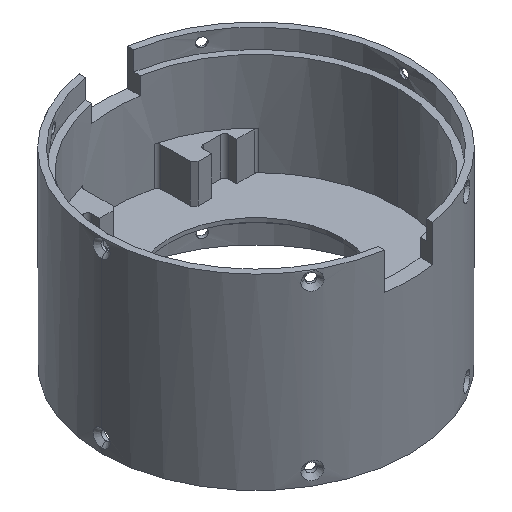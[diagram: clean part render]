
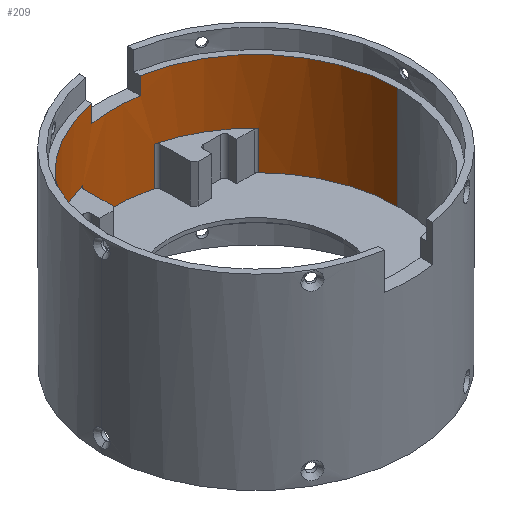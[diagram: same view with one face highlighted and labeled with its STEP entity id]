
A CAD part, isometric view. The second image highlights one B-rep face of the part: STEP entity #209.
In plain terms, the highlighted cylindrical face has radius 36.77 mm (diameter 73.54 mm), a partial arc.
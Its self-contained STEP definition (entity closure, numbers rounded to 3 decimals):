
#62 = DIRECTION ( 'NONE',  ( 0., 0., -1. ) ) ;
#209 = ADVANCED_FACE ( 'NONE', ( #2240 ), #686, .F. ) ;
#263 = CARTESIAN_POINT ( 'NONE',  ( -26.298, 25.699, 20. ) ) ;
#368 = ORIENTED_EDGE ( 'NONE', *, *, #799, .F. ) ;
#374 = DIRECTION ( 'NONE',  ( 1., 0., 0. ) ) ;
#376 = CARTESIAN_POINT ( 'NONE',  ( 36.77, 0., -94.001 ) ) ;
#400 = DIRECTION ( 'NONE',  ( 0., 0., 1. ) ) ;
#406 = CARTESIAN_POINT ( 'NONE',  ( -36.77, 0., 36.5 ) ) ;
#421 = ORIENTED_EDGE ( 'NONE', *, *, #4607, .F. ) ;
#488 = ORIENTED_EDGE ( 'NONE', *, *, #4606, .T. ) ;
#508 = EDGE_CURVE ( 'NONE', #1158, #2934, #1681, .T. ) ;
#532 = VECTOR ( 'NONE', #4901, 1000. ) ;
#541 = CIRCLE ( 'NONE', #4417, 36.77 ) ;
#643 = CARTESIAN_POINT ( 'NONE',  ( 6.25, 36.235, 32. ) ) ;
#661 = DIRECTION ( 'NONE',  ( 0., 0., 1. ) ) ;
#686 = CYLINDRICAL_SURFACE ( 'NONE', #1353, 36.77 ) ;
#708 = CIRCLE ( 'NONE', #2643, 36.77 ) ;
#728 = EDGE_CURVE ( 'NONE', #1699, #3225, #4744, .T. ) ;
#754 = LINE ( 'NONE', #2357, #4076 ) ;
#758 = EDGE_CURVE ( 'NONE', #3372, #1598, #754, .T. ) ;
#764 = VERTEX_POINT ( 'NONE', #4368 ) ;
#789 = CARTESIAN_POINT ( 'NONE',  ( 36.77, 0., 10. ) ) ;
#799 = EDGE_CURVE ( 'NONE', #4082, #764, #5207, .T. ) ;
#818 = CIRCLE ( 'NONE', #3522, 36.77 ) ;
#846 = LINE ( 'NONE', #1987, #4834 ) ;
#854 = LINE ( 'NONE', #376, #4703 ) ;
#915 = CIRCLE ( 'NONE', #3869, 36.77 ) ;
#935 = ORIENTED_EDGE ( 'NONE', *, *, #4119, .T. ) ;
#940 = VERTEX_POINT ( 'NONE', #263 ) ;
#1018 = EDGE_CURVE ( 'NONE', #1820, #4577, #846, .T. ) ;
#1095 = CARTESIAN_POINT ( 'NONE',  ( -36.77, 0., 10. ) ) ;
#1158 = VERTEX_POINT ( 'NONE', #4520 ) ;
#1160 = CARTESIAN_POINT ( 'NONE',  ( 0., 0., 10. ) ) ;
#1221 = DIRECTION ( 'NONE',  ( 1., 0., 0. ) ) ;
#1353 = AXIS2_PLACEMENT_3D ( 'NONE', #1902, #661, #3411 ) ;
#1382 = CARTESIAN_POINT ( 'NONE',  ( 0., 0., 10. ) ) ;
#1413 = ORIENTED_EDGE ( 'NONE', *, *, #2855, .F. ) ;
#1479 = CARTESIAN_POINT ( 'NONE',  ( -26.298, 25.699, -94.001 ) ) ;
#1495 = VERTEX_POINT ( 'NONE', #2908 ) ;
#1593 = DIRECTION ( 'NONE',  ( 0., 0., -1. ) ) ;
#1598 = VERTEX_POINT ( 'NONE', #2186 ) ;
#1681 = LINE ( 'NONE', #3719, #2983 ) ;
#1694 = EDGE_CURVE ( 'NONE', #2285, #4082, #4169, .T. ) ;
#1699 = VERTEX_POINT ( 'NONE', #1095 ) ;
#1709 = DIRECTION ( 'NONE',  ( 0., 0., -1. ) ) ;
#1759 = EDGE_CURVE ( 'NONE', #2285, #5101, #2520, .T. ) ;
#1800 = VECTOR ( 'NONE', #4426, 1000. ) ;
#1820 = VERTEX_POINT ( 'NONE', #2441 ) ;
#1850 = DIRECTION ( 'NONE',  ( 0., 0., 1. ) ) ;
#1902 = CARTESIAN_POINT ( 'NONE',  ( 0., 0., -94.001 ) ) ;
#1974 = DIRECTION ( 'NONE',  ( 0., 0., -1. ) ) ;
#1987 = CARTESIAN_POINT ( 'NONE',  ( 9.252, 35.587, -94.001 ) ) ;
#2160 = CARTESIAN_POINT ( 'NONE',  ( -6.25, 36.235, 32. ) ) ;
#2184 = ORIENTED_EDGE ( 'NONE', *, *, #508, .T. ) ;
#2186 = CARTESIAN_POINT ( 'NONE',  ( 26.298, 25.699, 10. ) ) ;
#2201 = DIRECTION ( 'NONE',  ( -1., 0., 0. ) ) ;
#2225 = ORIENTED_EDGE ( 'NONE', *, *, #2555, .T. ) ;
#2240 = FACE_OUTER_BOUND ( 'NONE', #2607, .T. ) ;
#2285 = VERTEX_POINT ( 'NONE', #2288 ) ;
#2288 = CARTESIAN_POINT ( 'NONE',  ( -6.25, 36.235, 32. ) ) ;
#2314 = VERTEX_POINT ( 'NONE', #5135 ) ;
#2333 = EDGE_CURVE ( 'NONE', #1820, #2934, #4747, .T. ) ;
#2357 = CARTESIAN_POINT ( 'NONE',  ( 26.298, 25.699, -94.001 ) ) ;
#2410 = CARTESIAN_POINT ( 'NONE',  ( 0., 0., 20. ) ) ;
#2441 = CARTESIAN_POINT ( 'NONE',  ( 9.252, 35.587, 10. ) ) ;
#2450 = CARTESIAN_POINT ( 'NONE',  ( 0., 0., 36.5 ) ) ;
#2520 = LINE ( 'NONE', #2160, #532 ) ;
#2547 = CARTESIAN_POINT ( 'NONE',  ( 0., 0., 20. ) ) ;
#2555 = EDGE_CURVE ( 'NONE', #4577, #3372, #3479, .T. ) ;
#2579 = DIRECTION ( 'NONE',  ( 0., 0., -1. ) ) ;
#2607 = EDGE_LOOP ( 'NONE', ( #4782, #1413, #935, #2959, #2184, #3214, #4145, #2225, #4180, #4792, #488, #3997, #368, #4953, #5173, #421 ) ) ;
#2617 = LINE ( 'NONE', #1479, #2700 ) ;
#2621 = CARTESIAN_POINT ( 'NONE',  ( 0., 0., 10. ) ) ;
#2643 = AXIS2_PLACEMENT_3D ( 'NONE', #2621, #1850, #5044 ) ;
#2700 = VECTOR ( 'NONE', #5018, 1000. ) ;
#2739 = CARTESIAN_POINT ( 'NONE',  ( -36.77, 0., -94.001 ) ) ;
#2749 = CARTESIAN_POINT ( 'NONE',  ( -9.252, 35.587, 10. ) ) ;
#2855 = EDGE_CURVE ( 'NONE', #2314, #1699, #708, .T. ) ;
#2894 = VECTOR ( 'NONE', #3972, 1000. ) ;
#2908 = CARTESIAN_POINT ( 'NONE',  ( 36.77, 0., 36.5 ) ) ;
#2934 = VERTEX_POINT ( 'NONE', #2749 ) ;
#2959 = ORIENTED_EDGE ( 'NONE', *, *, #4672, .T. ) ;
#2983 = VECTOR ( 'NONE', #1709, 1000. ) ;
#3214 = ORIENTED_EDGE ( 'NONE', *, *, #2333, .F. ) ;
#3225 = VERTEX_POINT ( 'NONE', #406 ) ;
#3263 = CARTESIAN_POINT ( 'NONE',  ( 0., 0., 36.5 ) ) ;
#3372 = VERTEX_POINT ( 'NONE', #4950 ) ;
#3401 = AXIS2_PLACEMENT_3D ( 'NONE', #1382, #4193, #2201 ) ;
#3411 = DIRECTION ( 'NONE',  ( 1., 0., 0. ) ) ;
#3479 = CIRCLE ( 'NONE', #4163, 36.77 ) ;
#3522 = AXIS2_PLACEMENT_3D ( 'NONE', #3263, #62, #1221 ) ;
#3650 = DIRECTION ( 'NONE',  ( -1., 0., 0. ) ) ;
#3719 = CARTESIAN_POINT ( 'NONE',  ( -9.252, 35.587, -94.001 ) ) ;
#3855 = EDGE_CURVE ( 'NONE', #4250, #1598, #4813, .T. ) ;
#3869 = AXIS2_PLACEMENT_3D ( 'NONE', #2547, #2579, #4189 ) ;
#3912 = CARTESIAN_POINT ( 'NONE',  ( -6.25, 36.235, 36.5 ) ) ;
#3956 = DIRECTION ( 'NONE',  ( 0., 0., -1. ) ) ;
#3972 = DIRECTION ( 'NONE',  ( 0., 0., 1. ) ) ;
#3997 = ORIENTED_EDGE ( 'NONE', *, *, #5172, .F. ) ;
#3998 = DIRECTION ( 'NONE',  ( 0., 0., -1. ) ) ;
#4041 = DIRECTION ( 'NONE',  ( 0., 0., 1. ) ) ;
#4066 = AXIS2_PLACEMENT_3D ( 'NONE', #4796, #1974, #4345 ) ;
#4076 = VECTOR ( 'NONE', #1593, 1000. ) ;
#4082 = VERTEX_POINT ( 'NONE', #643 ) ;
#4119 = EDGE_CURVE ( 'NONE', #2314, #940, #2617, .T. ) ;
#4145 = ORIENTED_EDGE ( 'NONE', *, *, #1018, .T. ) ;
#4163 = AXIS2_PLACEMENT_3D ( 'NONE', #2410, #3998, #374 ) ;
#4169 = CIRCLE ( 'NONE', #4066, 36.77 ) ;
#4180 = ORIENTED_EDGE ( 'NONE', *, *, #758, .T. ) ;
#4189 = DIRECTION ( 'NONE',  ( 1., 0., 0. ) ) ;
#4193 = DIRECTION ( 'NONE',  ( 0., 0., 1. ) ) ;
#4250 = VERTEX_POINT ( 'NONE', #789 ) ;
#4345 = DIRECTION ( 'NONE',  ( 1., 0., 0. ) ) ;
#4368 = CARTESIAN_POINT ( 'NONE',  ( 6.25, 36.235, 36.5 ) ) ;
#4417 = AXIS2_PLACEMENT_3D ( 'NONE', #2450, #3956, #5214 ) ;
#4426 = DIRECTION ( 'NONE',  ( 0., 0., 1. ) ) ;
#4502 = CARTESIAN_POINT ( 'NONE',  ( 9.252, 35.587, 20. ) ) ;
#4520 = CARTESIAN_POINT ( 'NONE',  ( -9.252, 35.587, 20. ) ) ;
#4577 = VERTEX_POINT ( 'NONE', #4502 ) ;
#4606 = EDGE_CURVE ( 'NONE', #4250, #1495, #854, .T. ) ;
#4607 = EDGE_CURVE ( 'NONE', #3225, #5101, #818, .T. ) ;
#4672 = EDGE_CURVE ( 'NONE', #940, #1158, #915, .T. ) ;
#4703 = VECTOR ( 'NONE', #400, 1000. ) ;
#4744 = LINE ( 'NONE', #2739, #2894 ) ;
#4747 = CIRCLE ( 'NONE', #3401, 36.77 ) ;
#4782 = ORIENTED_EDGE ( 'NONE', *, *, #728, .F. ) ;
#4792 = ORIENTED_EDGE ( 'NONE', *, *, #3855, .F. ) ;
#4796 = CARTESIAN_POINT ( 'NONE',  ( 0., 0., 32. ) ) ;
#4813 = CIRCLE ( 'NONE', #4897, 36.77 ) ;
#4821 = CARTESIAN_POINT ( 'NONE',  ( 6.25, 36.235, 32. ) ) ;
#4834 = VECTOR ( 'NONE', #4041, 1000. ) ;
#4864 = DIRECTION ( 'NONE',  ( 0., 0., 1. ) ) ;
#4897 = AXIS2_PLACEMENT_3D ( 'NONE', #1160, #4864, #3650 ) ;
#4901 = DIRECTION ( 'NONE',  ( 0., 0., 1. ) ) ;
#4950 = CARTESIAN_POINT ( 'NONE',  ( 26.298, 25.699, 20. ) ) ;
#4953 = ORIENTED_EDGE ( 'NONE', *, *, #1694, .F. ) ;
#5018 = DIRECTION ( 'NONE',  ( 0., 0., 1. ) ) ;
#5044 = DIRECTION ( 'NONE',  ( -1., 0., 0. ) ) ;
#5101 = VERTEX_POINT ( 'NONE', #3912 ) ;
#5135 = CARTESIAN_POINT ( 'NONE',  ( -26.298, 25.699, 10. ) ) ;
#5172 = EDGE_CURVE ( 'NONE', #764, #1495, #541, .T. ) ;
#5173 = ORIENTED_EDGE ( 'NONE', *, *, #1759, .T. ) ;
#5207 = LINE ( 'NONE', #4821, #1800 ) ;
#5214 = DIRECTION ( 'NONE',  ( 1., 0., 0. ) ) ;
